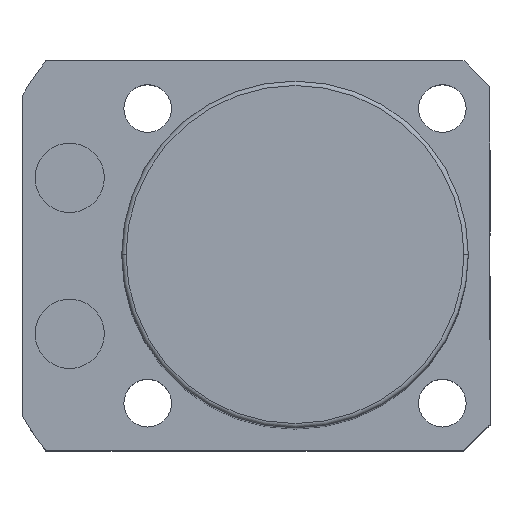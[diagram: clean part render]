
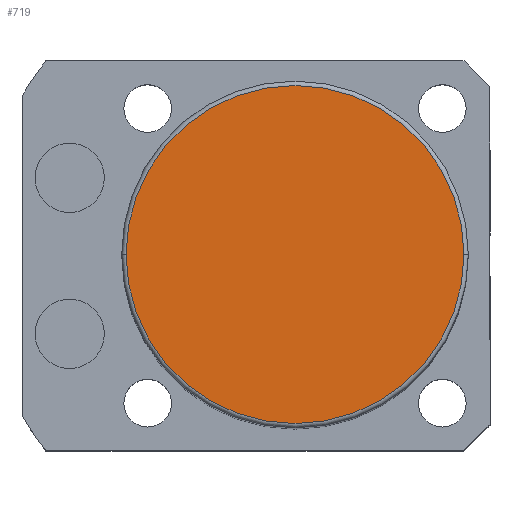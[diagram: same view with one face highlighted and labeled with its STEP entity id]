
A CAD part, top view. The second image highlights one B-rep face of the part: STEP entity #719.
In plain terms, the highlighted planar face has unit normal (0, 0, 1).
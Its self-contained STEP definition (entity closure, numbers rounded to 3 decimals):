
#11 = CIRCLE ( 'NONE', #77, 19.5 ) ;
#56 = EDGE_CURVE ( 'NONE', #582, #1306, #11, .T. ) ;
#77 = AXIS2_PLACEMENT_3D ( 'NONE', #270, #1940, #2284 ) ;
#270 = CARTESIAN_POINT ( 'NONE',  ( 0., 0., 98.5 ) ) ;
#294 = PLANE ( 'NONE',  #295 ) ;
#295 = AXIS2_PLACEMENT_3D ( 'NONE', #1575, #2339, #1767 ) ;
#302 = EDGE_LOOP ( 'NONE', ( #1407, #2349 ) ) ;
#359 = CARTESIAN_POINT ( 'NONE',  ( -19.5, 0., 98.5 ) ) ;
#582 = VERTEX_POINT ( 'NONE', #359 ) ;
#719 = ADVANCED_FACE ( 'NONE', ( #1477 ), #294, .T. ) ;
#784 = DIRECTION ( 'NONE',  ( 0., 0., 1. ) ) ;
#990 = CIRCLE ( 'NONE', #1601, 19.5 ) ;
#1123 = CARTESIAN_POINT ( 'NONE',  ( 19.5, 0., 98.5 ) ) ;
#1306 = VERTEX_POINT ( 'NONE', #1123 ) ;
#1404 = EDGE_CURVE ( 'NONE', #1306, #582, #990, .T. ) ;
#1407 = ORIENTED_EDGE ( 'NONE', *, *, #1404, .T. ) ;
#1477 = FACE_OUTER_BOUND ( 'NONE', #302, .T. ) ;
#1517 = CARTESIAN_POINT ( 'NONE',  ( 0., 0., 98.5 ) ) ;
#1575 = CARTESIAN_POINT ( 'NONE',  ( 0., 0., 98.5 ) ) ;
#1601 = AXIS2_PLACEMENT_3D ( 'NONE', #1517, #784, #1913 ) ;
#1767 = DIRECTION ( 'NONE',  ( 1., 0., 0. ) ) ;
#1913 = DIRECTION ( 'NONE',  ( 1., 0., 0. ) ) ;
#1940 = DIRECTION ( 'NONE',  ( 0., 0., 1. ) ) ;
#2284 = DIRECTION ( 'NONE',  ( 1., 0., 0. ) ) ;
#2339 = DIRECTION ( 'NONE',  ( 0., 0., 1. ) ) ;
#2349 = ORIENTED_EDGE ( 'NONE', *, *, #56, .T. ) ;
